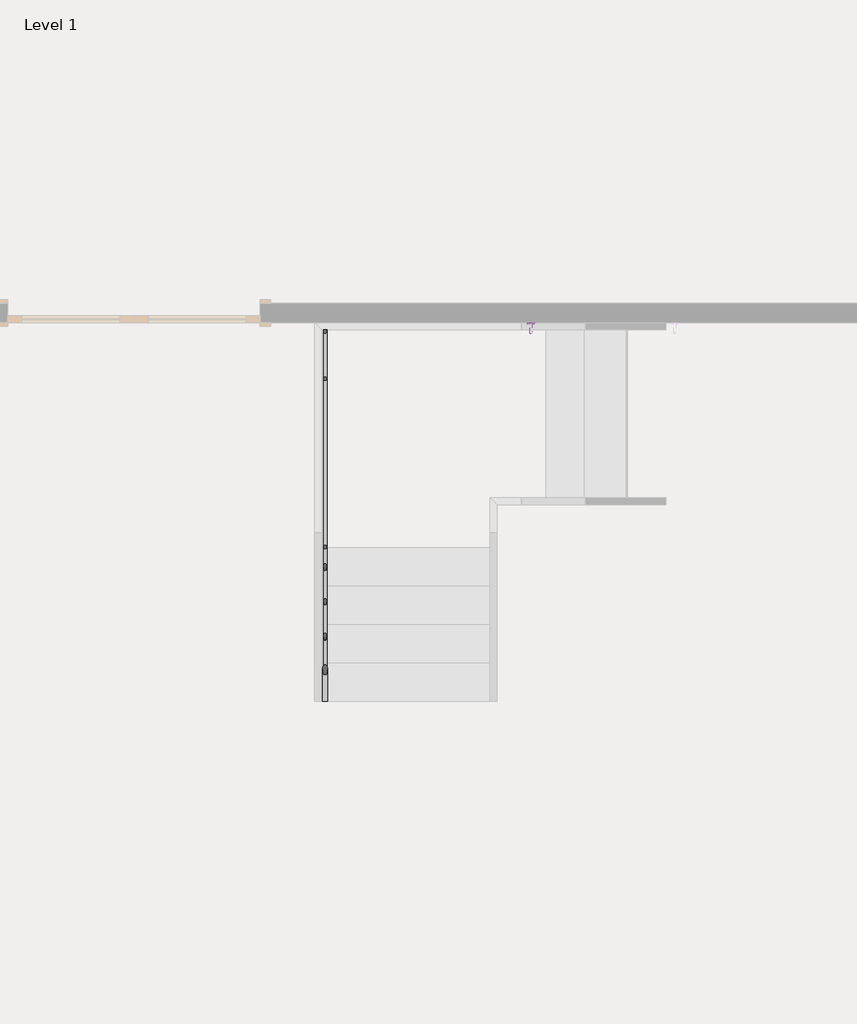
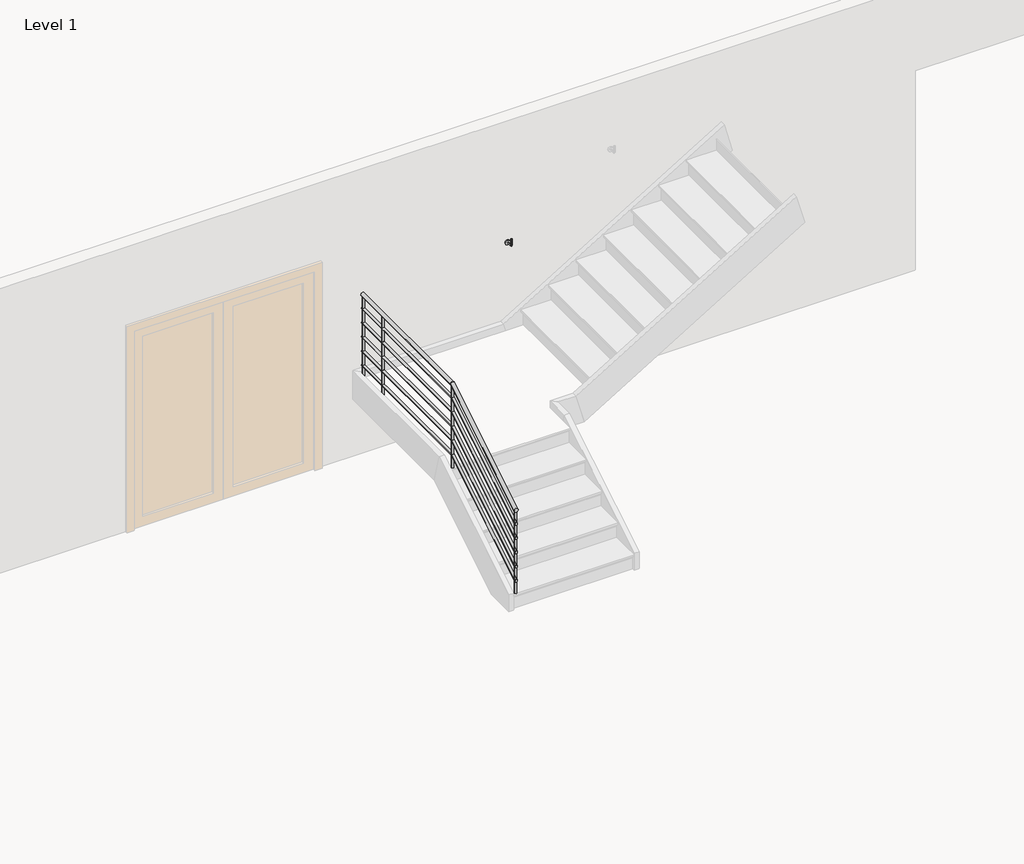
# One storey, part 3 of 5: 1 proxy, 1 railing.
"""IFC4 building model written with IfcOpenShell, lengths in millimetres."""

import ifcopenshell
import ifcopenshell.guid

model = None  # the IFC model being written
_history = None  # IfcOwnerHistory: only IFC2X3 demands one
_inside = {}  # id of a spatial element -> (the spatial element, [elements in it])
_under = {}  # id of a project, library or spatial element -> (it, [spatial elements below it])
_declared = {}  # id of a project -> (the project, [libraries it declares])
_typed = {}  # id of a type object -> (the type object, [elements of that type])
_made_of = {}  # id of a material, layer set ... -> (it, [elements and type objects made of it])


def new_model(schema):
    """Start an empty IFC model of exactly this schema.

    Asked for "IFC4X3", IfcOpenShell would pick the latest addendum, in which some entities
    have other attributes; the version numbers below select the first issue.
    IFC2X3 requires an IfcOwnerHistory on every rooted entity: one is made here for all.
    """
    global model, _history
    if schema == "IFC4X3":
        model = ifcopenshell.file(schema_version=(4, 3, 0, 0))
    else:
        model = ifcopenshell.file(schema=schema)
    _inside.clear()
    _under.clear()
    _declared.clear()
    _typed.clear()
    _made_of.clear()
    _history = None
    if model.schema == "IFC2X3":
        org = make("IfcOrganization", Name="unknown")
        user = make(
            "IfcPersonAndOrganization",
            ThePerson=make("IfcPerson", FamilyName="unknown"),
            TheOrganization=org,
        )
        app = make(
            "IfcApplication",
            ApplicationDeveloper=org,
            Version="unknown",
            ApplicationFullName="unknown",
            ApplicationIdentifier="unknown",
        )
        _history = make(
            "IfcOwnerHistory",
            OwningUser=user,
            OwningApplication=app,
            ChangeAction="ADDED",
            CreationDate=0,
        )
    return model


def make(cls, **values):
    """One entity of the class cls with the attributes given. An attribute that is None is left unset."""
    return model.create_entity(
        cls, **{name: value for name, value in values.items() if value is not None}
    )


def rooted(cls, **values):
    """An entity with a GlobalId (a new one), such as an element, a storey or a relation."""
    return make(cls, GlobalId=ifcopenshell.guid.new(), OwnerHistory=_history, **values)


def si_unit(unit_type, name, prefix=None):
    """IfcSIUnit, for example si_unit("LENGTHUNIT", "METRE", prefix="MILLI")."""
    return make("IfcSIUnit", UnitType=unit_type, Prefix=prefix, Name=name)


def assignment(units):
    """IfcUnitAssignment: the units of a project."""
    return None if units is None else make("IfcUnitAssignment", Units=units)


def point(xyz):
    """IfcCartesianPoint."""
    return None if xyz is None else make("IfcCartesianPoint", Coordinates=xyz)


def direction(xyz):
    """IfcDirection."""
    return None if xyz is None else make("IfcDirection", DirectionRatios=xyz)


def frame(location, z_axis=None, x_axis=None):
    """IfcAxis2Placement3D, a coordinate frame: its origin and axes. An axis left out is left unset."""
    return make(
        "IfcAxis2Placement3D",
        Location=point(location),
        Axis=direction(z_axis),
        RefDirection=direction(x_axis),
    )


def frame_2d(location, x_axis=None):
    """IfcAxis2Placement2D, a coordinate frame in the plane: its origin and x axis."""
    return make(
        "IfcAxis2Placement2D", Location=point(location), RefDirection=direction(x_axis)
    )


def origin():
    """The frame at (0, 0, 0) with its axes left unset."""
    return frame((0.0, 0.0, 0.0))


def origin_with_axes():
    """The frame at (0, 0, 0) with the z axis (0, 0, 1) and the x axis (1, 0, 0) written out."""
    return frame((0.0, 0.0, 0.0), z_axis=(0.0, 0.0, 1.0), x_axis=(1.0, 0.0, 0.0))


def place(relative_to, where):
    """IfcLocalPlacement: puts the frame where relative to a parent placement (None: the world)."""
    return make(
        "IfcLocalPlacement", PlacementRelTo=relative_to, RelativePlacement=where
    )


def context(
    kind, dimensions, precision=None, world=None, true_north=None, identifier=None
):
    """IfcGeometricRepresentationContext, for example the 3D "Model" context."""
    return make(
        "IfcGeometricRepresentationContext",
        ContextIdentifier=identifier,
        ContextType=kind,
        CoordinateSpaceDimension=dimensions,
        Precision=precision,
        WorldCoordinateSystem=world,
        TrueNorth=true_north,
    )


def project(units=None, contexts=None):
    """IfcProject with its units and contexts."""
    return rooted(
        "IfcProject",
        Name="project",
        RepresentationContexts=contexts,
        UnitsInContext=assignment(units),
    )


def spatial(cls, under=None, at=None, **own):
    """A site, building, storey or space (cls), placed at a placement, below another one or the project."""
    s = rooted(cls, ObjectPlacement=at, **own)
    if under is not None:
        _under.setdefault(under.id(), (under, []))[1].append(s)
    return s


def circle_curve(where, radius):
    """IfcCircle in the frame where."""
    return make("IfcCircle", Position=where, Radius=radius)


def ellipse_curve(where, semi_axis1, semi_axis2):
    """IfcEllipse in the frame where."""
    return make(
        "IfcEllipse", Position=where, SemiAxis1=semi_axis1, SemiAxis2=semi_axis2
    )


def trimmed(basis, trim1, trim2, sense, master):
    """IfcTrimmedCurve: the piece of a basis curve between two trims."""
    return make(
        "IfcTrimmedCurve",
        BasisCurve=basis,
        Trim1=trim1,
        Trim2=trim2,
        SenseAgreement=sense,
        MasterRepresentation=master,
    )


def segment(curve, same_sense, transition):
    """IfcCompositeCurveSegment."""
    return make(
        "IfcCompositeCurveSegment",
        Transition=transition,
        SameSense=same_sense,
        ParentCurve=curve,
    )


def composite_curve(segments, self_intersect=None):
    """IfcCompositeCurve: segments joined end to end."""
    return make("IfcCompositeCurve", Segments=segments, SelfIntersect=self_intersect)


def outline(outer, holes=None, kind="AREA"):
    """IfcArbitraryClosedProfileDef: a profile drawn as a closed curve; with holes, ...WithVoids."""
    if holes is None:
        return make("IfcArbitraryClosedProfileDef", ProfileType=kind, OuterCurve=outer)
    return make(
        "IfcArbitraryProfileDefWithVoids",
        ProfileType=kind,
        OuterCurve=outer,
        InnerCurves=holes,
    )


def extrude(swept, where, along, depth):
    """IfcExtrudedAreaSolid: the profile swept, set in the frame where, extruded along a direction by depth."""
    return make(
        "IfcExtrudedAreaSolid",
        SweptArea=swept,
        Position=where,
        ExtrudedDirection=direction(along),
        Depth=depth,
    )


def shape(context_of_items, identifier, shape_type, items):
    """IfcShapeRepresentation: the items that make up one representation, for example the "Body"."""
    return make(
        "IfcShapeRepresentation",
        ContextOfItems=context_of_items,
        RepresentationIdentifier=identifier,
        RepresentationType=shape_type,
        Items=items,
    )


def source(mapping_origin, context_of_items, identifier, shape_type, items):
    """IfcRepresentationMap: a shape defined once, which mapped items show again and again."""
    return make(
        "IfcRepresentationMap",
        MappingOrigin=mapping_origin,
        MappedRepresentation=shape(context_of_items, identifier, shape_type, items),
    )


def transform(
    local_origin,
    x_axis=None,
    y_axis=None,
    z_axis=None,
    scale=None,
    scale2=None,
    scale3=None,
    uniform=True,
):
    """IfcCartesianTransformationOperator3D, or its non-uniform kind. x_axis, y_axis, z_axis: its Axis1, 2, 3."""
    if uniform:
        return make(
            "IfcCartesianTransformationOperator3D",
            Axis1=direction(x_axis),
            Axis2=direction(y_axis),
            LocalOrigin=point(local_origin),
            Scale=scale,
            Axis3=direction(z_axis),
        )
    return make(
        "IfcCartesianTransformationOperator3DnonUniform",
        Axis1=direction(x_axis),
        Axis2=direction(y_axis),
        LocalOrigin=point(local_origin),
        Scale=scale,
        Axis3=direction(z_axis),
        Scale2=scale2,
        Scale3=scale3,
    )


def mapped(mapping_source, mapping_target):
    """IfcMappedItem: shows the shape of a source again, moved by a transform."""
    return make(
        "IfcMappedItem", MappingSource=mapping_source, MappingTarget=mapping_target
    )


def made_of(thing, what):
    """Note that an element or type object is made of a material, layer set ...; save() writes the relation."""
    if what is not None:
        _made_of.setdefault(what.id(), (what, []))[1].append(thing)
    return thing


def element(
    cls,
    number,
    at=None,
    inside=None,
    cuts=None,
    type_object=None,
    material=None,
    context=None,
    identifier="Body",
    shape_type=None,
    held_by="IfcProductDefinitionShape",
    body=None,
    shapes=None,
    **own,
):
    """One element of the class cls, such as IfcWall. Its Tag is "e" and its number.

    at: its placement. inside: the storey or other place that contains it. cuts: it is an
    opening in that element (IfcRelVoidsElement). A single representation is given by context,
    identifier, shape_type and body (its items); several are given by shapes. held_by: the class
    of the entity that holds the representations. save() writes the other relations.
    """
    e = rooted(cls, Tag="e%d" % number, ObjectPlacement=at, **own)
    if body is not None:
        shapes = [shape(context, identifier, shape_type, body)]
    if shapes is not None:
        e.Representation = make(held_by, Representations=shapes)
    if inside is not None:
        _inside.setdefault(inside.id(), (inside, []))[1].append(e)
    if cuts is not None:
        rooted(
            "IfcRelVoidsElement", RelatingBuildingElement=cuts, RelatedOpeningElement=e
        )
    if type_object is not None:
        _typed.setdefault(type_object.id(), (type_object, []))[1].append(e)
    return made_of(e, material)


def aggregate(whole, parts):
    """IfcRelAggregates: a whole, such as a stair, and the parts it consists of."""
    return rooted("IfcRelAggregates", RelatingObject=whole, RelatedObjects=parts)


def save(model, path):
    """Write the relations noted so far, then the file.

    IfcRelAggregates (storeys below a building ...), IfcRelContainedInSpatialStructure (elements
    in a storey), IfcRelDefinesByType, IfcRelAssociatesMaterial and IfcRelDeclares: one each for
    every whole, place, type object, material and project.
    """
    for whole, parts in _under.values():
        aggregate(whole, parts)
    for where, things in _inside.values():
        rooted(
            "IfcRelContainedInSpatialStructure",
            RelatedElements=things,
            RelatingStructure=where,
        )
    for kind, things in _typed.values():
        rooted("IfcRelDefinesByType", RelatedObjects=things, RelatingType=kind)
    for what, things in _made_of.values():
        rooted("IfcRelAssociatesMaterial", RelatedObjects=things, RelatingMaterial=what)
    for by, libraries in _declared.values():
        rooted("IfcRelDeclares", RelatingContext=by, RelatedDefinitions=libraries)
    model.write(path)


def plane_surface(at):
    """IfcPlane: the flat surface through the origin of the frame at, square to its z axis."""
    return make("IfcPlane", Position=at)


def cylinder_surface(at, radius):
    """IfcCylindricalSurface: all points at the distance radius from the z axis of the frame at."""
    return make("IfcCylindricalSurface", Position=at, Radius=radius)


def revolved_surface(curve, axis_point, axis_direction):
    """IfcSurfaceOfRevolution: the curve turned about the line through axis_point along axis_direction."""
    return make(
        "IfcSurfaceOfRevolution",
        SweptCurve=make("IfcArbitraryOpenProfileDef", ProfileType="CURVE", Curve=curve),
        AxisPosition=make("IfcAxis1Placement", Location=point(axis_point), Axis=direction(axis_direction)),
    )


def advanced_brep(points, edges, surfaces, faces):
    """IfcAdvancedBrep: a solid bounded by faces that lie on surfaces and meet in shared edges.

    An edge is (start, end): straight between two places in points (the first is 0);
    or (start, end, curve); or (start, end, curve, False) where it runs against its curve.
    A face is (place in surfaces, loops), or (place, loops, False) where it looks against
    its surface's normal. A loop lists edges by number (the first is 1), with a minus sign
    where the edge is run from its end to its start. The first loop is the outer one.
    """
    corners = [point(p) for p in points]
    vertices = [make("IfcVertexPoint", VertexGeometry=c) for c in corners]
    made = []
    for start, end, *more in edges:
        made.append(
            make(
                "IfcEdgeCurve",
                EdgeStart=vertices[start],
                EdgeEnd=vertices[end],
                EdgeGeometry=more[0] if more else make("IfcPolyline", Points=[corners[start], corners[end]]),
                SameSense=more[1] if len(more) > 1 else True,
            )
        )
    hull = []
    for where, loops, *sense in faces:
        bounds = []
        for j, loop in enumerate(loops):
            ring = [make("IfcOrientedEdge", EdgeElement=made[abs(k) - 1], Orientation=k > 0) for k in loop]
            bounds.append(
                make(
                    "IfcFaceOuterBound" if j == 0 else "IfcFaceBound",
                    Bound=make("IfcEdgeLoop", EdgeList=ring),
                    Orientation=True,
                )
            )
        hull.append(make("IfcAdvancedFace", Bounds=bounds, FaceSurface=surfaces[where], SameSense=sense[0] if sense else True))
    return make("IfcAdvancedBrep", Outer=make("IfcClosedShell", CfsFaces=hull))


def support_metal_circular_support_metal_circular_6fb01533(model_context):
    return source(origin(), model_context, "Body", "SolidModel", [
        advanced_brep(
        [(0.0, 63.5, -69.85), (0.0, 63.5, -82.55), (0.0, 12.7, -69.85), (0.0, 12.7, -82.55), (0.0, -6.35, -63.5), (0.0, 6.35, -63.5), (0.0, 6.35, 0.0), (0.0, -6.35, 0.0)],
        [
            (0, 1, circle_curve(frame((0.0, 63.5, -76.2), z_axis=(0.0, 1.0, 0.0), x_axis=(0.0, 0.0, -1.0)), 6.35)),
            (1, 0, circle_curve(frame((0.0, 63.5, -76.2), z_axis=(0.0, 1.0, 0.0), x_axis=(0.0, 0.0, -1.0)), 6.35)),
            (0, 2),
            (2, 3, circle_curve(frame((0.0, 12.7, -76.2), z_axis=(0.0, 1.0, 0.0), x_axis=(0.0, 0.0, -1.0)), 6.35)),
            (3, 1),
            (3, 2, circle_curve(frame((0.0, 12.7, -76.2), z_axis=(0.0, 1.0, 0.0), x_axis=(0.0, 0.0, -1.0)), 6.35)),
            (4, 3, circle_curve(frame((0.0, 12.7, -63.5), z_axis=(1.0, 0.0, 0.0), x_axis=(0.0, 0.0, -1.0)), 19.05)),
            (2, 5, circle_curve(frame((0.0, 12.7, -63.5), z_axis=(-1.0, 0.0, 0.0), x_axis=(0.0, 0.0, -1.0)), 6.35)),
            (5, 4, circle_curve(frame((0.0, 0.0, -63.5), z_axis=(0.0, 0.0, -1.0), x_axis=(0.0, -1.0, 0.0)), 6.35)),
            (4, 5, circle_curve(frame((0.0, 0.0, -63.5), z_axis=(0.0, 0.0, -1.0), x_axis=(0.0, -1.0, 0.0)), 6.35)),
            (6, 7, circle_curve(frame((0.0, 0.0, 0.0), z_axis=(0.0, 0.0, 1.0), x_axis=(0.0, -1.0, 0.0)), 6.35)),
            (7, 6, circle_curve(frame((0.0, 0.0, 0.0), z_axis=(0.0, 0.0, 1.0), x_axis=(0.0, -1.0, 0.0)), 6.35)),
            (5, 6),
            (7, 4),
        ],
        [
            plane_surface(frame((0.0, 63.5, -76.2), z_axis=(0.0, 1.0, 0.0), x_axis=(1.0, 0.0, 0.0))),
            cylinder_surface(frame((0.0, 63.5, -76.2), z_axis=(0.0, 1.0, 0.0), x_axis=(0.0, 0.0, -1.0)), 6.35),
            revolved_surface(trimmed(ellipse_curve(frame((0.0, 12.7, -76.2), z_axis=(0.0, 1.0, 0.0), x_axis=(0.0, 0.0, -1.0)), 6.35, 6.35), [point((0.0, 12.7, -69.85))], [point((0.0, 12.7, -82.55))], True, "CARTESIAN"), (0.0, 12.7, -63.5), (-1.0, 0.0, 0.0)),
            revolved_surface(trimmed(ellipse_curve(frame((0.0, 12.7, -76.2), z_axis=(0.0, 1.0, 0.0), x_axis=(0.0, 0.0, -1.0)), 6.35, 6.35), [point((0.0, 12.7, -82.55))], [point((0.0, 12.7, -69.85))], True, "CARTESIAN"), (0.0, 12.7, -63.5), (-1.0, 0.0, 0.0)),
            plane_surface(origin_with_axes()),
            cylinder_surface(frame((0.0, 0.0, -63.5), z_axis=(0.0, 0.0, -1.0), x_axis=(0.0, -1.0, 0.0)), 6.35),
        ],
        [
            (0, [[1, 2]]),
            (1, [[-1, 3, 4, 5]]),
            (1, [[-2, -5, 6, -3]]),
            (2, [[7, -4, 8, 9]]),
            (3, [[-8, -6, -7, 10]]),
            (4, [[11, 12]]),
            (5, [[-9, 13, -12, 14]]),
            (5, [[-10, -14, -11, -13]]),
        ],
    ),
        extrude(outline(composite_curve([segment(trimmed(circle_curve(frame_2d((-76.2, 0.0)), 25.4), [point((-76.2, -25.4))], [point((-76.2, 25.4))], False, "CARTESIAN"), True, "CONTINUOUS"), segment(trimmed(circle_curve(frame_2d((-76.2, 0.0)), 25.4), [point((-76.2, 25.4))], [point((-76.2, -25.4))], False, "CARTESIAN"), True, "CONTINUOUS")], self_intersect=False)), frame((0.0, 63.5, 0.0), z_axis=(0.0, 1.0, 0.0), x_axis=(0.0, 0.0, 1.0)), (0.0, 0.0, 1.0), 12.7),
    ])


model = new_model("IFC4")

# Units and contexts
model_context = context("Model", 3, world=origin())
ifc_project = project(units=[si_unit("LENGTHUNIT", "METRE", prefix="MILLI")], contexts=[model_context])

# Site, building, storey
site = spatial("IfcSite", under=ifc_project)
building = spatial("IfcBuilding", under=site)
storey = spatial("IfcBuildingStorey", under=building, Name="Level 1", Elevation=0.0)

# Proxy
placement = place(None, origin())
support_metal_circular_support_metal_circular_shape = support_metal_circular_support_metal_circular_6fb01533(model_context)
element("IfcBuildingElementProxy", 1, Name="Support - Metal - Circular : Support - Metal - Circular", ObjectType="Support - Metal - Circular : Support - Metal - Circular", at=placement, inside=storey, context=model_context, shape_type="MappedRepresentation", body=[
    mapped(support_metal_circular_support_metal_circular_shape, transform((-4174.6676928, 6463.5483604, 1826.9361753), x_axis=(1.0, 0.0, 0.0), y_axis=(0.0, 1.0, 0.0), z_axis=(0.0, 0.0, 1.0))),
])

# Railing
element("IfcRailing", 2, ObjectType="Handrail - Pipe", at=placement, inside=storey, context=model_context, shape_type="SolidModel", body=[
    advanced_brep(
    [(-5647.967382, 3796.5483604, 1061.4577857), (-5686.067382, 3796.5483604, 1061.4577857), (-5647.967382, 4919.470514, 1742.0166667), (-5686.067382, 4919.470514, 1742.0166667), (-5647.967382, 6488.9483604, 1742.0166667), (-5686.067382, 6488.9483604, 1742.0166667)],
    [
        (0, 1, ellipse_curve(frame((-5667.017382, 3796.5483604, 1061.4577857), z_axis=(0.0, -1.0, 0.0), x_axis=(0.0, 0.0, -1.0)), 22.2755476, 19.05)),
        (1, 0, ellipse_curve(frame((-5667.017382, 3796.5483604, 1061.4577857), z_axis=(0.0, -1.0, 0.0), x_axis=(0.0, 0.0, -1.0)), 22.2755476, 19.05)),
        (0, 2),
        (2, 3, ellipse_curve(frame((-5667.017382, 4919.470514, 1742.0166667), z_axis=(0.0, -0.9631193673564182, -0.2690744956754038), x_axis=(0.0, 0.26907449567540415, -0.9631193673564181)), 19.7794797, 19.05)),
        (3, 1),
        (3, 2, ellipse_curve(frame((-5667.017382, 4919.470514, 1742.0166667), z_axis=(0.0, -0.9631193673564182, -0.2690744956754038), x_axis=(0.0, 0.26907449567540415, -0.9631193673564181)), 19.7794797, 19.05)),
        (4, 5, circle_curve(frame((-5667.017382, 6488.9483604, 1742.0166667), z_axis=(0.0, 1.0, 0.0), x_axis=(-1.0, 0.0, 0.0)), 19.05)),
        (5, 4, circle_curve(frame((-5667.017382, 6488.9483604, 1742.0166667), z_axis=(0.0, 1.0, 0.0), x_axis=(-1.0, 0.0, 0.0)), 19.05)),
        (2, 4),
        (5, 3),
    ],
    [
        plane_surface(frame((-5667.017382, 3796.5483604, 1083.7333333), z_axis=(0.0, -1.0, 0.0), x_axis=(0.0, 0.0, 1.0))),
        cylinder_surface(frame((-5667.017382, 3806.4220081, 1067.4418146), z_axis=(0.0, -0.8551978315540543, -0.5183017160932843), x_axis=(-1.0, 0.0, 0.0)), 19.05),
        plane_surface(frame((-5667.017382, 6488.9483604, 1761.0666667), z_axis=(0.0, 1.0, 0.0), x_axis=(0.0, 0.0, 1.0))),
        cylinder_surface(frame((-5667.017382, 4914.1483604, 1742.0166667), z_axis=(0.0, -1.0, 0.0), x_axis=(-1.0, 0.0, 0.0)), 19.05),
    ],
    [
        (0, [[1, 2]]),
        (1, [[-1, 3, 4, 5]]),
        (1, [[-2, -5, 6, -3]]),
        (2, [[7, 8]]),
        (3, [[-4, 9, -8, 10]]),
        (3, [[-6, -10, -7, -9]]),
    ],
),
    advanced_brep(
    [(-5654.317382, 3796.5483604, 916.4829683), (-5679.717382, 3796.5483604, 916.4829683), (-5654.317382, 4914.1483604, 1593.8163016), (-5679.717382, 4914.1483604, 1593.8163016)],
    [
        (0, 1, ellipse_curve(frame((-5667.017382, 3796.5483604, 916.4829683), z_axis=(0.0, -1.0, 0.0), x_axis=(0.0, 0.0, -1.0)), 14.8503651, 12.7)),
        (1, 0, ellipse_curve(frame((-5667.017382, 3796.5483604, 916.4829683), z_axis=(0.0, -1.0, 0.0), x_axis=(0.0, 0.0, -1.0)), 14.8503651, 12.7)),
        (2, 3, ellipse_curve(frame((-5667.017382, 4914.1483604, 1593.8163016), z_axis=(0.0, 1.0, 0.0), x_axis=(0.0, 0.0, -1.0)), 14.8503651, 12.7)),
        (3, 2, ellipse_curve(frame((-5667.017382, 4914.1483604, 1593.8163016), z_axis=(0.0, 1.0, 0.0), x_axis=(0.0, 0.0, -1.0)), 14.8503651, 12.7)),
        (0, 2),
        (3, 1),
    ],
    [
        plane_surface(frame((-5667.017382, 3796.5483604, 931.3333333), z_axis=(0.0, -1.0, 0.0), x_axis=(0.0, 0.0, 1.0))),
        plane_surface(frame((-5667.017382, 4914.1483604, 1608.6666667), z_axis=(0.0, 1.0, 0.0), x_axis=(0.0, 0.0, 1.0))),
        cylinder_surface(frame((-5667.017382, 3803.1307922, 920.4723209), z_axis=(0.0, -0.8551978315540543, -0.5183017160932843), x_axis=(-1.0, 0.0, 0.0)), 12.7),
    ],
    [
        (0, [[1, 2]]),
        (1, [[3, 4]]),
        (2, [[-1, 5, -4, 6]]),
        (2, [[-2, -6, -3, -5]]),
    ],
),
    advanced_brep(
    [(-5654.317382, 4914.1483604, 1595.9666667), (-5679.717382, 4914.1483604, 1595.9666667), (-5654.317382, 6488.9483604, 1595.9666667), (-5679.717382, 6488.9483604, 1595.9666667)],
    [
        (0, 1, circle_curve(frame((-5667.017382, 4914.1483604, 1595.9666667), z_axis=(0.0, -1.0, 0.0), x_axis=(-1.0, 0.0, 0.0)), 12.7)),
        (1, 0, circle_curve(frame((-5667.017382, 4914.1483604, 1595.9666667), z_axis=(0.0, -1.0, 0.0), x_axis=(-1.0, 0.0, 0.0)), 12.7)),
        (2, 3, circle_curve(frame((-5667.017382, 6488.9483604, 1595.9666667), z_axis=(0.0, 1.0, 0.0), x_axis=(-1.0, 0.0, 0.0)), 12.7)),
        (3, 2, circle_curve(frame((-5667.017382, 6488.9483604, 1595.9666667), z_axis=(0.0, 1.0, 0.0), x_axis=(-1.0, 0.0, 0.0)), 12.7)),
        (0, 2),
        (3, 1),
    ],
    [
        plane_surface(frame((-5667.017382, 4914.1483604, 1608.6666667), z_axis=(0.0, -1.0, 0.0), x_axis=(0.0, 0.0, 1.0))),
        plane_surface(frame((-5667.017382, 6488.9483604, 1608.6666667), z_axis=(0.0, 1.0, 0.0), x_axis=(0.0, 0.0, 1.0))),
        cylinder_surface(frame((-5667.017382, 4914.1483604, 1595.9666667), z_axis=(0.0, -1.0, 0.0), x_axis=(-1.0, 0.0, 0.0)), 12.7),
    ],
    [
        (0, [[1, 2]]),
        (1, [[3, 4]]),
        (2, [[-1, 5, -4, 6]]),
        (2, [[-2, -6, -3, -5]]),
    ],
),
    advanced_brep(
    [(-5654.317382, 3796.5483604, 764.0829683), (-5679.717382, 3796.5483604, 764.0829683), (-5654.317382, 4914.1483604, 1441.4163016), (-5679.717382, 4914.1483604, 1441.4163016)],
    [
        (0, 1, ellipse_curve(frame((-5667.017382, 3796.5483604, 764.0829683), z_axis=(0.0, -1.0, 0.0), x_axis=(0.0, 0.0, -1.0)), 14.8503651, 12.7)),
        (1, 0, ellipse_curve(frame((-5667.017382, 3796.5483604, 764.0829683), z_axis=(0.0, -1.0, 0.0), x_axis=(0.0, 0.0, -1.0)), 14.8503651, 12.7)),
        (2, 3, ellipse_curve(frame((-5667.017382, 4914.1483604, 1441.4163016), z_axis=(0.0, 1.0, 0.0), x_axis=(0.0, 0.0, -1.0)), 14.8503651, 12.7)),
        (3, 2, ellipse_curve(frame((-5667.017382, 4914.1483604, 1441.4163016), z_axis=(0.0, 1.0, 0.0), x_axis=(0.0, 0.0, -1.0)), 14.8503651, 12.7)),
        (0, 2),
        (3, 1),
    ],
    [
        plane_surface(frame((-5667.017382, 3796.5483604, 778.9333333), z_axis=(0.0, -1.0, 0.0), x_axis=(0.0, 0.0, 1.0))),
        plane_surface(frame((-5667.017382, 4914.1483604, 1456.2666667), z_axis=(0.0, 1.0, 0.0), x_axis=(0.0, 0.0, 1.0))),
        cylinder_surface(frame((-5667.017382, 3803.1307922, 768.0723209), z_axis=(0.0, -0.8551978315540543, -0.5183017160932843), x_axis=(-1.0, 0.0, 0.0)), 12.7),
    ],
    [
        (0, [[1, 2]]),
        (1, [[3, 4]]),
        (2, [[-1, 5, -4, 6]]),
        (2, [[-2, -6, -3, -5]]),
    ],
),
    advanced_brep(
    [(-5654.317382, 4914.1483604, 1443.5666667), (-5679.717382, 4914.1483604, 1443.5666667), (-5654.317382, 6488.9483604, 1443.5666667), (-5679.717382, 6488.9483604, 1443.5666667)],
    [
        (0, 1, circle_curve(frame((-5667.017382, 4914.1483604, 1443.5666667), z_axis=(0.0, -1.0, 0.0), x_axis=(-1.0, 0.0, 0.0)), 12.7)),
        (1, 0, circle_curve(frame((-5667.017382, 4914.1483604, 1443.5666667), z_axis=(0.0, -1.0, 0.0), x_axis=(-1.0, 0.0, 0.0)), 12.7)),
        (2, 3, circle_curve(frame((-5667.017382, 6488.9483604, 1443.5666667), z_axis=(0.0, 1.0, 0.0), x_axis=(-1.0, 0.0, 0.0)), 12.7)),
        (3, 2, circle_curve(frame((-5667.017382, 6488.9483604, 1443.5666667), z_axis=(0.0, 1.0, 0.0), x_axis=(-1.0, 0.0, 0.0)), 12.7)),
        (0, 2),
        (3, 1),
    ],
    [
        plane_surface(frame((-5667.017382, 4914.1483604, 1456.2666667), z_axis=(0.0, -1.0, 0.0), x_axis=(0.0, 0.0, 1.0))),
        plane_surface(frame((-5667.017382, 6488.9483604, 1456.2666667), z_axis=(0.0, 1.0, 0.0), x_axis=(0.0, 0.0, 1.0))),
        cylinder_surface(frame((-5667.017382, 4914.1483604, 1443.5666667), z_axis=(0.0, -1.0, 0.0), x_axis=(-1.0, 0.0, 0.0)), 12.7),
    ],
    [
        (0, [[1, 2]]),
        (1, [[3, 4]]),
        (2, [[-1, 5, -4, 6]]),
        (2, [[-2, -6, -3, -5]]),
    ],
),
    advanced_brep(
    [(-5654.317382, 3796.5483604, 611.6829683), (-5679.717382, 3796.5483604, 611.6829683), (-5654.317382, 4914.1483604, 1289.0163016), (-5679.717382, 4914.1483604, 1289.0163016)],
    [
        (0, 1, ellipse_curve(frame((-5667.017382, 3796.5483604, 611.6829683), z_axis=(0.0, -1.0, 0.0), x_axis=(0.0, 0.0, -1.0)), 14.8503651, 12.7)),
        (1, 0, ellipse_curve(frame((-5667.017382, 3796.5483604, 611.6829683), z_axis=(0.0, -1.0, 0.0), x_axis=(0.0, 0.0, -1.0)), 14.8503651, 12.7)),
        (2, 3, ellipse_curve(frame((-5667.017382, 4914.1483604, 1289.0163016), z_axis=(0.0, 1.0, 0.0), x_axis=(0.0, 0.0, -1.0)), 14.8503651, 12.7)),
        (3, 2, ellipse_curve(frame((-5667.017382, 4914.1483604, 1289.0163016), z_axis=(0.0, 1.0, 0.0), x_axis=(0.0, 0.0, -1.0)), 14.8503651, 12.7)),
        (0, 2),
        (3, 1),
    ],
    [
        plane_surface(frame((-5667.017382, 3796.5483604, 626.5333333), z_axis=(0.0, -1.0, 0.0), x_axis=(0.0, 0.0, 1.0))),
        plane_surface(frame((-5667.017382, 4914.1483604, 1303.8666667), z_axis=(0.0, 1.0, 0.0), x_axis=(0.0, 0.0, 1.0))),
        cylinder_surface(frame((-5667.017382, 3803.1307922, 615.6723209), z_axis=(0.0, -0.8551978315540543, -0.5183017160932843), x_axis=(-1.0, 0.0, 0.0)), 12.7),
    ],
    [
        (0, [[1, 2]]),
        (1, [[3, 4]]),
        (2, [[-1, 5, -4, 6]]),
        (2, [[-2, -6, -3, -5]]),
    ],
),
    advanced_brep(
    [(-5654.317382, 4914.1483604, 1291.1666667), (-5679.717382, 4914.1483604, 1291.1666667), (-5654.317382, 6488.9483604, 1291.1666667), (-5679.717382, 6488.9483604, 1291.1666667)],
    [
        (0, 1, circle_curve(frame((-5667.017382, 4914.1483604, 1291.1666667), z_axis=(0.0, -1.0, 0.0), x_axis=(-1.0, 0.0, 0.0)), 12.7)),
        (1, 0, circle_curve(frame((-5667.017382, 4914.1483604, 1291.1666667), z_axis=(0.0, -1.0, 0.0), x_axis=(-1.0, 0.0, 0.0)), 12.7)),
        (2, 3, circle_curve(frame((-5667.017382, 6488.9483604, 1291.1666667), z_axis=(0.0, 1.0, 0.0), x_axis=(-1.0, 0.0, 0.0)), 12.7)),
        (3, 2, circle_curve(frame((-5667.017382, 6488.9483604, 1291.1666667), z_axis=(0.0, 1.0, 0.0), x_axis=(-1.0, 0.0, 0.0)), 12.7)),
        (0, 2),
        (3, 1),
    ],
    [
        plane_surface(frame((-5667.017382, 4914.1483604, 1303.8666667), z_axis=(0.0, -1.0, 0.0), x_axis=(0.0, 0.0, 1.0))),
        plane_surface(frame((-5667.017382, 6488.9483604, 1303.8666667), z_axis=(0.0, 1.0, 0.0), x_axis=(0.0, 0.0, 1.0))),
        cylinder_surface(frame((-5667.017382, 4914.1483604, 1291.1666667), z_axis=(0.0, -1.0, 0.0), x_axis=(-1.0, 0.0, 0.0)), 12.7),
    ],
    [
        (0, [[1, 2]]),
        (1, [[3, 4]]),
        (2, [[-1, 5, -4, 6]]),
        (2, [[-2, -6, -3, -5]]),
    ],
),
    advanced_brep(
    [(-5654.317382, 3796.5483604, 459.2829683), (-5679.717382, 3796.5483604, 459.2829683), (-5654.317382, 4914.1483604, 1136.6163016), (-5679.717382, 4914.1483604, 1136.6163016)],
    [
        (0, 1, ellipse_curve(frame((-5667.017382, 3796.5483604, 459.2829683), z_axis=(0.0, -1.0, 0.0), x_axis=(0.0, 0.0, -1.0)), 14.8503651, 12.7)),
        (1, 0, ellipse_curve(frame((-5667.017382, 3796.5483604, 459.2829683), z_axis=(0.0, -1.0, 0.0), x_axis=(0.0, 0.0, -1.0)), 14.8503651, 12.7)),
        (2, 3, ellipse_curve(frame((-5667.017382, 4914.1483604, 1136.6163016), z_axis=(0.0, 1.0, 0.0), x_axis=(0.0, 0.0, -1.0)), 14.8503651, 12.7)),
        (3, 2, ellipse_curve(frame((-5667.017382, 4914.1483604, 1136.6163016), z_axis=(0.0, 1.0, 0.0), x_axis=(0.0, 0.0, -1.0)), 14.8503651, 12.7)),
        (0, 2),
        (3, 1),
    ],
    [
        plane_surface(frame((-5667.017382, 3796.5483604, 474.1333333), z_axis=(0.0, -1.0, 0.0), x_axis=(0.0, 0.0, 1.0))),
        plane_surface(frame((-5667.017382, 4914.1483604, 1151.4666667), z_axis=(0.0, 1.0, 0.0), x_axis=(0.0, 0.0, 1.0))),
        cylinder_surface(frame((-5667.017382, 3803.1307922, 463.2723209), z_axis=(0.0, -0.8551978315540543, -0.5183017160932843), x_axis=(-1.0, 0.0, 0.0)), 12.7),
    ],
    [
        (0, [[1, 2]]),
        (1, [[3, 4]]),
        (2, [[-1, 5, -4, 6]]),
        (2, [[-2, -6, -3, -5]]),
    ],
),
    advanced_brep(
    [(-5654.317382, 4914.1483604, 1138.7666667), (-5679.717382, 4914.1483604, 1138.7666667), (-5654.317382, 6488.9483604, 1138.7666667), (-5679.717382, 6488.9483604, 1138.7666667)],
    [
        (0, 1, circle_curve(frame((-5667.017382, 4914.1483604, 1138.7666667), z_axis=(0.0, -1.0, 0.0), x_axis=(-1.0, 0.0, 0.0)), 12.7)),
        (1, 0, circle_curve(frame((-5667.017382, 4914.1483604, 1138.7666667), z_axis=(0.0, -1.0, 0.0), x_axis=(-1.0, 0.0, 0.0)), 12.7)),
        (2, 3, circle_curve(frame((-5667.017382, 6488.9483604, 1138.7666667), z_axis=(0.0, 1.0, 0.0), x_axis=(-1.0, 0.0, 0.0)), 12.7)),
        (3, 2, circle_curve(frame((-5667.017382, 6488.9483604, 1138.7666667), z_axis=(0.0, 1.0, 0.0), x_axis=(-1.0, 0.0, 0.0)), 12.7)),
        (0, 2),
        (3, 1),
    ],
    [
        plane_surface(frame((-5667.017382, 4914.1483604, 1151.4666667), z_axis=(0.0, -1.0, 0.0), x_axis=(0.0, 0.0, 1.0))),
        plane_surface(frame((-5667.017382, 6488.9483604, 1151.4666667), z_axis=(0.0, 1.0, 0.0), x_axis=(0.0, 0.0, 1.0))),
        cylinder_surface(frame((-5667.017382, 4914.1483604, 1138.7666667), z_axis=(0.0, -1.0, 0.0), x_axis=(-1.0, 0.0, 0.0)), 12.7),
    ],
    [
        (0, [[1, 2]]),
        (1, [[3, 4]]),
        (2, [[-1, 5, -4, 6]]),
        (2, [[-2, -6, -3, -5]]),
    ],
),
    advanced_brep(
    [(-5654.317382, 3796.5483604, 306.8829683), (-5679.717382, 3796.5483604, 306.8829683), (-5654.317382, 4914.1483604, 984.2163016), (-5679.717382, 4914.1483604, 984.2163016)],
    [
        (0, 1, ellipse_curve(frame((-5667.017382, 3796.5483604, 306.8829683), z_axis=(0.0, -1.0, 0.0), x_axis=(0.0, 0.0, -1.0)), 14.8503651, 12.7)),
        (1, 0, ellipse_curve(frame((-5667.017382, 3796.5483604, 306.8829683), z_axis=(0.0, -1.0, 0.0), x_axis=(0.0, 0.0, -1.0)), 14.8503651, 12.7)),
        (2, 3, ellipse_curve(frame((-5667.017382, 4914.1483604, 984.2163016), z_axis=(0.0, 1.0, 0.0), x_axis=(0.0, 0.0, -1.0)), 14.8503651, 12.7)),
        (3, 2, ellipse_curve(frame((-5667.017382, 4914.1483604, 984.2163016), z_axis=(0.0, 1.0, 0.0), x_axis=(0.0, 0.0, -1.0)), 14.8503651, 12.7)),
        (0, 2),
        (3, 1),
    ],
    [
        plane_surface(frame((-5667.017382, 3796.5483604, 321.7333333), z_axis=(0.0, -1.0, 0.0), x_axis=(0.0, 0.0, 1.0))),
        plane_surface(frame((-5667.017382, 4914.1483604, 999.0666667), z_axis=(0.0, 1.0, 0.0), x_axis=(0.0, 0.0, 1.0))),
        cylinder_surface(frame((-5667.017382, 3803.1307922, 310.8723209), z_axis=(0.0, -0.8551978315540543, -0.5183017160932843), x_axis=(-1.0, 0.0, 0.0)), 12.7),
    ],
    [
        (0, [[1, 2]]),
        (1, [[3, 4]]),
        (2, [[-1, 5, -4, 6]]),
        (2, [[-2, -6, -3, -5]]),
    ],
),
    advanced_brep(
    [(-5654.317382, 4914.1483604, 986.3666667), (-5679.717382, 4914.1483604, 986.3666667), (-5654.317382, 6488.9483604, 986.3666667), (-5679.717382, 6488.9483604, 986.3666667)],
    [
        (0, 1, circle_curve(frame((-5667.017382, 4914.1483604, 986.3666667), z_axis=(0.0, -1.0, 0.0), x_axis=(-1.0, 0.0, 0.0)), 12.7)),
        (1, 0, circle_curve(frame((-5667.017382, 4914.1483604, 986.3666667), z_axis=(0.0, -1.0, 0.0), x_axis=(-1.0, 0.0, 0.0)), 12.7)),
        (2, 3, circle_curve(frame((-5667.017382, 6488.9483604, 986.3666667), z_axis=(0.0, 1.0, 0.0), x_axis=(-1.0, 0.0, 0.0)), 12.7)),
        (3, 2, circle_curve(frame((-5667.017382, 6488.9483604, 986.3666667), z_axis=(0.0, 1.0, 0.0), x_axis=(-1.0, 0.0, 0.0)), 12.7)),
        (0, 2),
        (3, 1),
    ],
    [
        plane_surface(frame((-5667.017382, 4914.1483604, 999.0666667), z_axis=(0.0, -1.0, 0.0), x_axis=(0.0, 0.0, 1.0))),
        plane_surface(frame((-5667.017382, 6488.9483604, 999.0666667), z_axis=(0.0, 1.0, 0.0), x_axis=(0.0, 0.0, 1.0))),
        cylinder_surface(frame((-5667.017382, 4914.1483604, 986.3666667), z_axis=(0.0, -1.0, 0.0), x_axis=(-1.0, 0.0, 0.0)), 12.7),
    ],
    [
        (0, [[1, 2]]),
        (1, [[3, 4]]),
        (2, [[-1, 5, -4, 6]]),
        (2, [[-2, -6, -3, -5]]),
    ],
),
    extrude(outline(composite_curve([segment(trimmed(circle_curve(frame_2d((-5667.017382, 6133.3483604)), 12.7), [point((-5654.317382, 6133.3483604))], [point((-5679.717382, 6133.3483604))], False, "CARTESIAN"), True, "CONTINUOUS"), segment(trimmed(circle_curve(frame_2d((-5667.017382, 6133.3483604)), 12.7), [point((-5679.717382, 6133.3483604))], [point((-5654.317382, 6133.3483604))], False, "CARTESIAN"), True, "CONTINUOUS")], self_intersect=False)), frame((0.0, 0.0, 846.6666667), z_axis=(0.0, 0.0, 1.0), x_axis=(1.0, 0.0, 0.0)), (0.0, 0.0, 1.0), 876.3),
    advanced_brep(
    [(-5679.717382, 4914.1483604, 1716.5155715), (-5654.317382, 4914.1483604, 1716.5155715), (-5654.317382, 4914.1483604, 846.6666667), (-5679.717382, 4914.1483604, 846.6666667)],
    [
        (0, 1, ellipse_curve(frame((-5667.017382, 4914.1483604, 1716.5155715), z_axis=(0.0, 0.5183017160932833, -0.8551978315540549), x_axis=(0.0, 0.855197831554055, 0.518301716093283)), 14.8503651, 12.7)),
        (1, 2),
        (2, 3, circle_curve(frame((-5667.017382, 4914.1483604, 846.6666667), z_axis=(0.0, 0.0, 1.0), x_axis=(1.0, 0.0, 0.0)), 12.7)),
        (3, 0),
        (3, 2, circle_curve(frame((-5667.017382, 4914.1483604, 846.6666667), z_axis=(0.0, 0.0, 1.0), x_axis=(1.0, 0.0, 0.0)), 12.7)),
        (1, 0, ellipse_curve(frame((-5667.017382, 4914.1483604, 1716.5155715), z_axis=(0.0, 0.5183017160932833, -0.8551978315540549), x_axis=(0.0, 0.855197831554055, 0.518301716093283)), 14.8503651, 12.7)),
    ],
    [
        cylinder_surface(frame((-5667.017382, 4914.1483604, 618.0666667), z_axis=(0.0, 0.0, 1.0), x_axis=(1.0, 0.0, 0.0)), 12.7),
        plane_surface(frame((-5641.617382, 4939.5483604, 1731.9095109), z_axis=(0.0, -0.5183017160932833, 0.8551978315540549), x_axis=(-1.0, 0.0, 0.0))),
        plane_surface(frame((-5641.617382, 4888.7483604, 846.6666667), z_axis=(0.0, 0.0, -1.0), x_axis=(-1.0, 0.0, 0.0))),
    ],
    [
        (0, [[1, 2, 3, 4]]),
        (0, [[5, -2, 6, -4]]),
        (1, [[-6, -1]]),
        (2, [[-5, -3]]),
    ],
),
    extrude(outline(composite_curve([segment(trimmed(circle_curve(frame_2d((-5667.017382, 6476.2483604)), 12.7), [point((-5654.317382, 6476.2483604))], [point((-5679.717382, 6476.2483604))], False, "CARTESIAN"), True, "CONTINUOUS"), segment(trimmed(circle_curve(frame_2d((-5667.017382, 6476.2483604)), 12.7), [point((-5679.717382, 6476.2483604))], [point((-5654.317382, 6476.2483604))], False, "CARTESIAN"), True, "CONTINUOUS")], self_intersect=False)), frame((0.0, 0.0, 846.6666667), z_axis=(0.0, 0.0, 1.0), x_axis=(1.0, 0.0, 0.0)), (0.0, 0.0, 1.0), 876.3),
    advanced_brep(
    [(-5679.717382, 3809.2483604, 1046.8792078), (-5654.317382, 3809.2483604, 1046.8792078), (-5654.317382, 3809.2483604, 169.3333333), (-5679.717382, 3809.2483604, 169.3333333)],
    [
        (0, 1, ellipse_curve(frame((-5667.017382, 3809.2483604, 1046.8792078), z_axis=(0.0, 0.5183017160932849, -0.8551978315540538), x_axis=(0.0, 0.8551978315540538, 0.518301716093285)), 14.8503651, 12.7)),
        (1, 2),
        (2, 3, circle_curve(frame((-5667.017382, 3809.2483604, 169.3333333), z_axis=(0.0, 0.0, 1.0), x_axis=(1.0, 0.0, 0.0)), 12.7)),
        (3, 0),
        (3, 2, circle_curve(frame((-5667.017382, 3809.2483604, 169.3333333), z_axis=(0.0, 0.0, 1.0), x_axis=(1.0, 0.0, 0.0)), 12.7)),
        (1, 0, ellipse_curve(frame((-5667.017382, 3809.2483604, 1046.8792078), z_axis=(0.0, 0.5183017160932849, -0.8551978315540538), x_axis=(0.0, 0.8551978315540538, 0.518301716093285)), 14.8503651, 12.7)),
    ],
    [
        cylinder_surface(frame((-5667.017382, 3809.2483604, -59.2666667), z_axis=(0.0, 0.0, 1.0), x_axis=(1.0, 0.0, 0.0)), 12.7),
        plane_surface(frame((-5641.617382, 3834.6483604, 1062.2731472), z_axis=(0.0, -0.5183017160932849, 0.8551978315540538), x_axis=(-1.0, 0.0, 0.0))),
        plane_surface(frame((-5641.617382, 3783.8483604, 169.3333333), z_axis=(0.0, 0.0, -1.0), x_axis=(-1.0, 0.0, 0.0))),
    ],
    [
        (0, [[1, 2, 3, 4]]),
        (0, [[5, -2, 6, -4]]),
        (1, [[-6, -1]]),
        (2, [[-5, -3]]),
    ],
),
])

save(model, "model.ifc")
